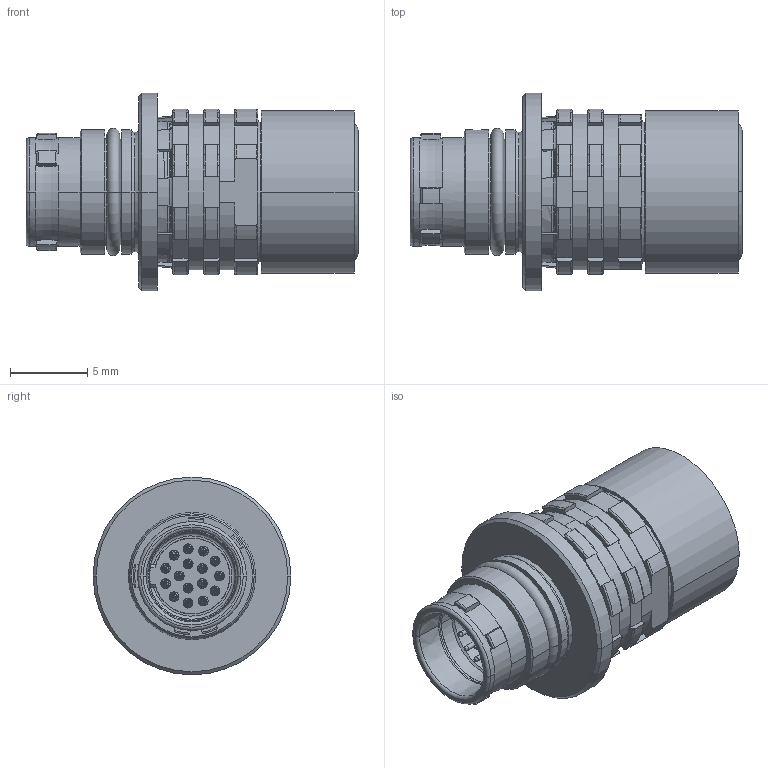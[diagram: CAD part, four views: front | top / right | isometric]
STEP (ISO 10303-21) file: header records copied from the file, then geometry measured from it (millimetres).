
FILE_DESCRIPTION((''),'2;1');
FILE_NAME('TEMP_SW_STEP_MONOBLOCK','2018-10-01T',('DTurza'),(''),'PRO/ENGINEER BY PARAMETRIC TECHNOLOGY CORPORATION, 2016360','PRO/ENGINEER BY PARAMETRIC TECHNOLOGY CORPORATION, 2016360','');
FILE_SCHEMA(('AUTOMOTIVE_DESIGN { 1 0 10303 214 1 1 1 1 }'));
Products named in the file (1): TEMP_SW_STEP_MONOBLOCK
Bounding box: 21.5 x 12.8 x 12.8 mm (x, y, z)
Volume: 844.8 mm3; surface area: 2610.6 mm2
Topology: 1 solids, 1 shells, 1186 faces, 2980 edges, 1769 vertices
Faces by surface type: cylinder 413, plane 295, cone 207, torus 198, bspline 41, sphere 32
Entity records: 58033 total; most frequent: CARTESIAN_POINT 21409, DIRECTION 6215, ORIENTED_EDGE 5832, EDGE_CURVE 2916, AXIS2_PLACEMENT_3D 2540, VERTEX_POINT 1769, CIRCLE 1395, EDGE_LOOP 1257
